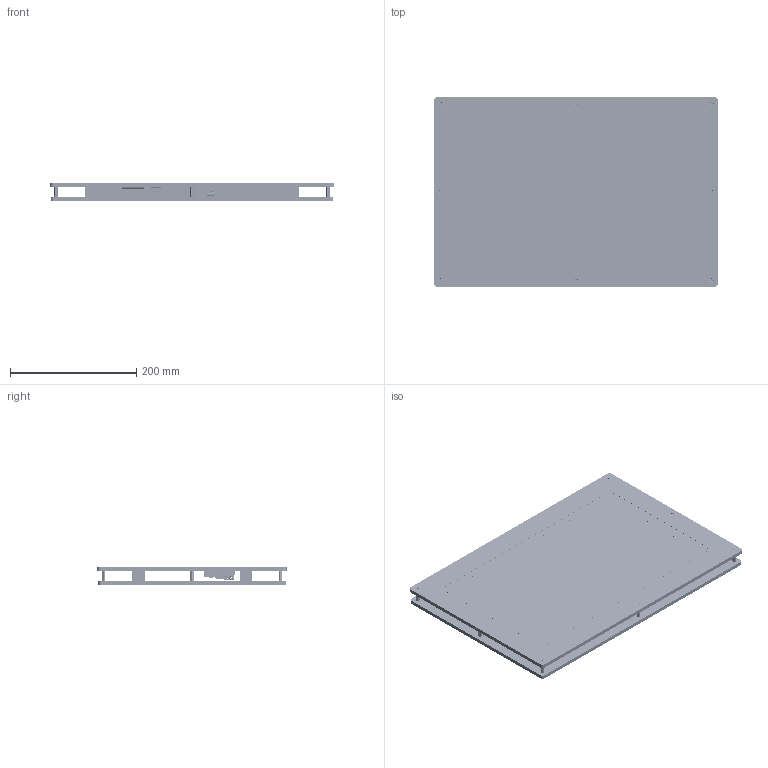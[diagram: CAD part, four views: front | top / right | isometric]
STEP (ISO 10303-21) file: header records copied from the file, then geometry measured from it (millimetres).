
FILE_DESCRIPTION((''),'2;1');
FILE_NAME('15_6INCH-HDMI-LCD_ASM_ASSEMBLY_ASM','2026-03-27T14:39:35',('ag'),(''),'CREO PARAMETRIC BY PTC INC, 2021063','CREO PARAMETRIC BY PTC INC, 2021063','');
FILE_SCHEMA(('CONFIG_CONTROL_DESIGN','SHAPE_APPEARANCE_LAYERS_GROUPS'));
Products named in the file (51): H156B72-1920X1080-IPS_2; TG156-1358A1-TP_2; 15_6INCH-TP-PCBA_2_1; HP1_25MMX4PIN-SMT_1_1; FPC1567A0-CONNECTOR_2_1; 156CORE-001_2_1; 15_6INCH-TP-PCBA-A1_ASM_2_1_ASM; 15_6INCH-1920X1080-IPS-TP_ASM_3_ASM; 15_6HP-CAPQLED-PCBA_3_1_2_1; 15_6HP-CAPQLED-PCBA_3_1_2_2; 15_6HP-CAPQLED-PCBA_3_1_2_3; 15_6HP-CAPQLED-PCBA_3_1_2_4; 15_6HP-CAPQLED-PCBA_3_1_2_5; 15_6HP-CAPQLED-PCBA_3_1_2_6; 15_6HP-CAPQLED-PCBA_3_1_2_7; 15_6HP-CAPQLED-PCBA_3_1_2_8; 15_6HP-CAPQLED-PCBA_3_1_2_9; 15_6HP-CAPQLED-PCBA_3_1_2_10; 15_6HP-CAPQLED-PCBA_3_1_2_11; 15_6HP-CAPQLED-PCBA_3_1_2_12; 15_6HP-CAPQLED-PCBA_3_1_2_13; 15_6HP-CAPQLED-PCBA_3_1_2_14; 15_6HP-CAPQLED-PCBA_3_1_2_15; 15_6HP-CAPQLED-PCBA_3_1_2_16; 15_6HP-CAPQLED-PCBA_3_1_2_17; 15_6HP-CAPQLED-PCBA_3_1_2_18; 15_6HP-CAPQLED-PCBA_3_1_2_ASM; J1_CUI_DEVICES_SJ2-35894D-SMT_6; J1_CUI_DEVICES_SJ2-35894D-SMT_7; J1_CUI_DEVICES_SJ2-35894D-SMT_8; J1_CUI_DEVICES_SJ2-35894D-SMT_9; J1_CUI_DEVICES_SJ2-35894D-SMT_5_ASM; CORE_1_1_2_1; CORE_1_1_2_2; CORE_1_1_2_3; CORE_1_1_2_4; CORE_1_1_2_ASM; 15_6INCH-HDMI-LCD-PCBA_ASM_1_1_ASM; EVA_1_1_2_1; EVA_1_1_2_2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
Assembly tree (72 placements, depth 4):
  15_6INCH-HDMI-LCD_ASM_ASSEMBLY_ASM
    15_6INCH-1920X1080-IPS-TP_ASM_3_ASM
      H156B72-1920X1080-IPS_2
      TG156-1358A1-TP_2
      15_6INCH-TP-PCBA-A1_ASM_2_1_ASM
        15_6INCH-TP-PCBA_2_1
        HP1_25MMX4PIN-SMT_1_1
        FPC1567A0-CONNECTOR_2_1
        156CORE-001_2_1
    15_6INCH-HDMI-LCD-PCBA_ASM_1_1_ASM
      15_6HP-CAPQLED-PCBA_3_1_2_ASM
        15_6HP-CAPQLED-PCBA_3_1_2_1
        15_6HP-CAPQLED-PCBA_3_1_2_2
        15_6HP-CAPQLED-PCBA_3_1_2_3
        15_6HP-CAPQLED-PCBA_3_1_2_4
        15_6HP-CAPQLED-PCBA_3_1_2_5
        15_6HP-CAPQLED-PCBA_3_1_2_6
        15_6HP-CAPQLED-PCBA_3_1_2_7
        15_6HP-CAPQLED-PCBA_3_1_2_8
        15_6HP-CAPQLED-PCBA_3_1_2_9
        15_6HP-CAPQLED-PCBA_3_1_2_10
        15_6HP-CAPQLED-PCBA_3_1_2_11
        15_6HP-CAPQLED-PCBA_3_1_2_12
        15_6HP-CAPQLED-PCBA_3_1_2_13
        15_6HP-CAPQLED-PCBA_3_1_2_14
        15_6HP-CAPQLED-PCBA_3_1_2_15
        15_6HP-CAPQLED-PCBA_3_1_2_16
        15_6HP-CAPQLED-PCBA_3_1_2_17
        15_6HP-CAPQLED-PCBA_3_1_2_18
      J1_CUI_DEVICES_SJ2-35894D-SMT_5_ASM
        J1_CUI_DEVICES_SJ2-35894D-SMT_6
        J1_CUI_DEVICES_SJ2-35894D-SMT_7
        J1_CUI_DEVICES_SJ2-35894D-SMT_8
        J1_CUI_DEVICES_SJ2-35894D-SMT_9
      CORE_1_1_2_ASM
        CORE_1_1_2_1
        CORE_1_1_2_2
        CORE_1_1_2_3
        CORE_1_1_2_4
    EVA_1_1_2_ASM
      EVA_1_1_2_1
      EVA_1_1_2_2
    15_6INCH-HDMI-LCD-FRONT_2
    EVA-SPONG_1_ASM
      EVA-SPONG_1_1
      EVA-SPONG_1_2
      EVA-SPONG_1_3
      EVA-SPONG_1_4
    15_6INCH-HDMI-LCD-BASE_2
    HEX_STUDS-M3XH16_2  x8
    KM3X10-SCREW_2  x16
Bounding box: 450 x 300 x 28 mm (x, y, z)
Volume: 1669354.8 mm3; surface area: 957060.9 mm2
Topology: 54 solids, 69 shells, 6388 faces, 18555 edges, 12450 vertices
Faces by surface type: plane 4035, cylinder 1806, bspline 326, cone 204, sphere 15, torus 2
Entity records: 198914 total; most frequent: CARTESIAN_POINT 40701, ORIENTED_EDGE 27120, DIRECTION 24059, EDGE_CURVE 13564, VECTOR 11491, LINE 11491, VERTEX_POINT 9176, AXIS2_PLACEMENT_3D 6284
